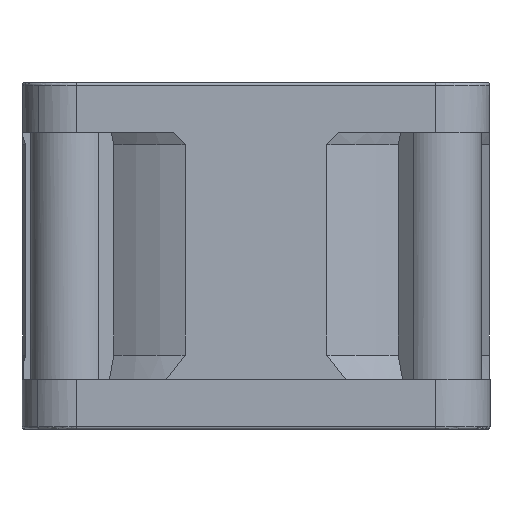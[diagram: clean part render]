
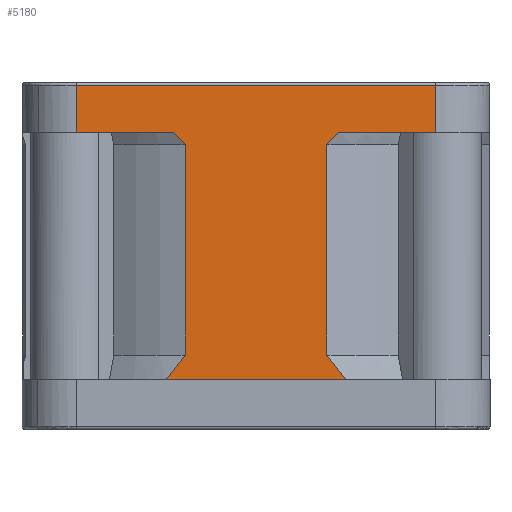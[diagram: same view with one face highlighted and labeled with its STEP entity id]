
A CAD part, front view. The second image highlights one B-rep face of the part: STEP entity #5180.
In plain terms, the highlighted planar face has unit normal (0, -1, 0).
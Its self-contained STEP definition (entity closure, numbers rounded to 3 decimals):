
#38 = ORIENTED_EDGE ( 'NONE', *, *, #13311, .T. ) ;
#216 = EDGE_CURVE ( 'NONE', #6040, #9717, #12644, .T. ) ;
#267 = CARTESIAN_POINT ( 'NONE',  ( -6.684, -18.85, 24. ) ) ;
#350 = ORIENTED_EDGE ( 'NONE', *, *, #21051, .F. ) ;
#498 = VECTOR ( 'NONE', #8387, 1000. ) ;
#911 = EDGE_CURVE ( 'NONE', #12487, #4637, #17363, .T. ) ;
#1254 = VECTOR ( 'NONE', #14013, 1000. ) ;
#1792 = CARTESIAN_POINT ( 'NONE',  ( -5.724, -18.85, 23. ) ) ;
#2999 = VERTEX_POINT ( 'NONE', #7656 ) ;
#3026 = DIRECTION ( 'NONE',  ( 1., 0., 0. ) ) ;
#3277 = CARTESIAN_POINT ( 'NONE',  ( -7.261, -18.85, 4. ) ) ;
#3299 = ORIENTED_EDGE ( 'NONE', *, *, #6300, .T. ) ;
#3322 = CARTESIAN_POINT ( 'NONE',  ( -5.724, -18.85, -83.632 ) ) ;
#3414 = DIRECTION ( 'NONE',  ( 0., -1., 0. ) ) ;
#3617 = VERTEX_POINT ( 'NONE', #12288 ) ;
#4112 = CARTESIAN_POINT ( 'NONE',  ( -14.5, -18.85, -83.632 ) ) ;
#4188 = B_SPLINE_CURVE_WITH_KNOTS ( 'NONE', 3,
 ( #14390, #5940, #17768, #7609 ),
 .UNSPECIFIED., .F., .F.,
 ( 4, 4 ),
 ( 0., 1. ),
 .UNSPECIFIED. ) ;
#4309 = VECTOR ( 'NONE', #20648, 1000. ) ;
#4441 = VECTOR ( 'NONE', #21150, 1000. ) ;
#4637 = VERTEX_POINT ( 'NONE', #8511 ) ;
#4750 = ORIENTED_EDGE ( 'NONE', *, *, #11983, .T. ) ;
#4971 = LINE ( 'NONE', #19395, #4441 ) ;
#5068 = LINE ( 'NONE', #16837, #498 ) ;
#5180 = ADVANCED_FACE ( 'NONE', ( #12090 ), #9996, .T. ) ;
#5440 = CARTESIAN_POINT ( 'NONE',  ( 6.043, -18.85, 23.309 ) ) ;
#5630 = CARTESIAN_POINT ( 'NONE',  ( 14.5, -18.85, 27.8 ) ) ;
#5785 = LINE ( 'NONE', #10548, #1254 ) ;
#5940 = CARTESIAN_POINT ( 'NONE',  ( -6.043, -18.85, 23.309 ) ) ;
#6035 = LINE ( 'NONE', #3322, #10018 ) ;
#6040 = VERTEX_POINT ( 'NONE', #16093 ) ;
#6300 = EDGE_CURVE ( 'NONE', #9598, #3617, #10210, .T. ) ;
#6335 = EDGE_LOOP ( 'NONE', ( #13031, #38, #350, #9245, #4750, #15990, #9536, #16357, #15376, #17036, #3299, #15705 ) ) ;
#6655 = CARTESIAN_POINT ( 'NONE',  ( -6.23, -18.85, 5.412 ) ) ;
#7130 = CARTESIAN_POINT ( 'NONE',  ( -7.261, -18.85, 4. ) ) ;
#7420 = CARTESIAN_POINT ( 'NONE',  ( 5.724, -18.85, 6. ) ) ;
#7609 = CARTESIAN_POINT ( 'NONE',  ( -6.684, -18.85, 24. ) ) ;
#7656 = CARTESIAN_POINT ( 'NONE',  ( -14.5, -18.85, 24. ) ) ;
#7869 = VERTEX_POINT ( 'NONE', #21946 ) ;
#7941 = CARTESIAN_POINT ( 'NONE',  ( 6.684, -18.85, 24. ) ) ;
#8041 = CARTESIAN_POINT ( 'NONE',  ( 0., -18.85, 24. ) ) ;
#8387 = DIRECTION ( 'NONE',  ( 0., 0., 1. ) ) ;
#8511 = CARTESIAN_POINT ( 'NONE',  ( 14.5, -18.85, 24. ) ) ;
#8741 = CARTESIAN_POINT ( 'NONE',  ( 6.363, -18.85, 23.642 ) ) ;
#9127 = CARTESIAN_POINT ( 'NONE',  ( 6.745, -18.85, 4.741 ) ) ;
#9245 = ORIENTED_EDGE ( 'NONE', *, *, #11302, .T. ) ;
#9536 = ORIENTED_EDGE ( 'NONE', *, *, #19220, .T. ) ;
#9598 = VERTEX_POINT ( 'NONE', #22126 ) ;
#9717 = VERTEX_POINT ( 'NONE', #7130 ) ;
#9996 = PLANE ( 'NONE',  #14930 ) ;
#10018 = VECTOR ( 'NONE', #10123, 1000. ) ;
#10123 = DIRECTION ( 'NONE',  ( 0., 0., -1. ) ) ;
#10210 = LINE ( 'NONE', #20045, #18657 ) ;
#10548 = CARTESIAN_POINT ( 'NONE',  ( -7.261, -18.85, 4. ) ) ;
#11302 = EDGE_CURVE ( 'NONE', #7869, #2999, #13842, .T. ) ;
#11983 = EDGE_CURVE ( 'NONE', #2999, #18006, #17515, .T. ) ;
#12090 = FACE_OUTER_BOUND ( 'NONE', #6335, .T. ) ;
#12194 = CARTESIAN_POINT ( 'NONE',  ( 6.684, -18.85, 24. ) ) ;
#12288 = CARTESIAN_POINT ( 'NONE',  ( 5.724, -18.85, 23. ) ) ;
#12487 = VERTEX_POINT ( 'NONE', #7941 ) ;
#12513 = VECTOR ( 'NONE', #3026, 1000. ) ;
#12644 = B_SPLINE_CURVE_WITH_KNOTS ( 'NONE', 3,
 ( #15121, #6655, #18503, #3277 ),
 .UNSPECIFIED., .F., .F.,
 ( 4, 4 ),
 ( 0., 1. ),
 .UNSPECIFIED. ) ;
#12767 = EDGE_CURVE ( 'NONE', #20496, #18006, #4188, .T. ) ;
#13031 = ORIENTED_EDGE ( 'NONE', *, *, #911, .T. ) ;
#13311 = EDGE_CURVE ( 'NONE', #4637, #13927, #5068, .T. ) ;
#13425 = B_SPLINE_CURVE_WITH_KNOTS ( 'NONE', 3,
 ( #12194, #8741, #5440, #17271 ),
 .UNSPECIFIED., .F., .F.,
 ( 4, 4 ),
 ( 0., 1. ),
 .UNSPECIFIED. ) ;
#13492 = EDGE_CURVE ( 'NONE', #12487, #3617, #13425, .T. ) ;
#13842 = LINE ( 'NONE', #4112, #4309 ) ;
#13927 = VERTEX_POINT ( 'NONE', #5630 ) ;
#14013 = DIRECTION ( 'NONE',  ( 1., 0., 0. ) ) ;
#14390 = CARTESIAN_POINT ( 'NONE',  ( -5.724, -18.85, 23. ) ) ;
#14930 = AXIS2_PLACEMENT_3D ( 'NONE', #22053, #3414, #15246 ) ;
#15121 = CARTESIAN_POINT ( 'NONE',  ( -5.724, -18.85, 6. ) ) ;
#15246 = DIRECTION ( 'NONE',  ( -1., 0., 0. ) ) ;
#15376 = ORIENTED_EDGE ( 'NONE', *, *, #18599, .T. ) ;
#15705 = ORIENTED_EDGE ( 'NONE', *, *, #13492, .F. ) ;
#15990 = ORIENTED_EDGE ( 'NONE', *, *, #12767, .F. ) ;
#16093 = CARTESIAN_POINT ( 'NONE',  ( -5.724, -18.85, 6. ) ) ;
#16357 = ORIENTED_EDGE ( 'NONE', *, *, #216, .T. ) ;
#16378 = CARTESIAN_POINT ( 'NONE',  ( 0., -18.85, 24. ) ) ;
#16401 = DIRECTION ( 'NONE',  ( 1., 0., 0. ) ) ;
#16837 = CARTESIAN_POINT ( 'NONE',  ( 14.5, -18.85, -83.632 ) ) ;
#17036 = ORIENTED_EDGE ( 'NONE', *, *, #17636, .F. ) ;
#17271 = CARTESIAN_POINT ( 'NONE',  ( 5.724, -18.85, 23. ) ) ;
#17288 = VERTEX_POINT ( 'NONE', #17826 ) ;
#17363 = LINE ( 'NONE', #16378, #21945 ) ;
#17515 = LINE ( 'NONE', #8041, #12513 ) ;
#17636 = EDGE_CURVE ( 'NONE', #9598, #17288, #19637, .T. ) ;
#17768 = CARTESIAN_POINT ( 'NONE',  ( -6.363, -18.85, 23.642 ) ) ;
#17826 = CARTESIAN_POINT ( 'NONE',  ( 7.261, -18.85, 4. ) ) ;
#18006 = VERTEX_POINT ( 'NONE', #267 ) ;
#18503 = CARTESIAN_POINT ( 'NONE',  ( -6.742, -18.85, 4.745 ) ) ;
#18599 = EDGE_CURVE ( 'NONE', #9717, #17288, #5785, .T. ) ;
#18657 = VECTOR ( 'NONE', #21809, 1000. ) ;
#19220 = EDGE_CURVE ( 'NONE', #20496, #6040, #6035, .T. ) ;
#19395 = CARTESIAN_POINT ( 'NONE',  ( 0., -18.85, 27.8 ) ) ;
#19637 = B_SPLINE_CURVE_WITH_KNOTS ( 'NONE', 3,
 ( #7420, #20820, #9127, #21042 ),
 .UNSPECIFIED., .F., .F.,
 ( 4, 4 ),
 ( 0., 1. ),
 .UNSPECIFIED. ) ;
#20045 = CARTESIAN_POINT ( 'NONE',  ( 5.724, -18.85, -83.632 ) ) ;
#20496 = VERTEX_POINT ( 'NONE', #1792 ) ;
#20648 = DIRECTION ( 'NONE',  ( 0., 0., -1. ) ) ;
#20820 = CARTESIAN_POINT ( 'NONE',  ( 6.234, -18.85, 5.408 ) ) ;
#21042 = CARTESIAN_POINT ( 'NONE',  ( 7.261, -18.85, 4. ) ) ;
#21051 = EDGE_CURVE ( 'NONE', #7869, #13927, #4971, .T. ) ;
#21150 = DIRECTION ( 'NONE',  ( 1., 0., 0. ) ) ;
#21809 = DIRECTION ( 'NONE',  ( 0., 0., 1. ) ) ;
#21945 = VECTOR ( 'NONE', #16401, 1000. ) ;
#21946 = CARTESIAN_POINT ( 'NONE',  ( -14.5, -18.85, 27.8 ) ) ;
#22053 = CARTESIAN_POINT ( 'NONE',  ( 0., -18.85, -83.632 ) ) ;
#22126 = CARTESIAN_POINT ( 'NONE',  ( 5.724, -18.85, 6. ) ) ;
